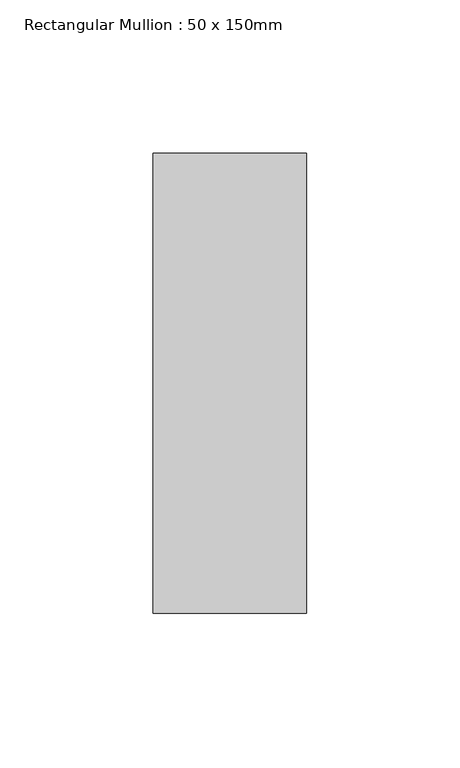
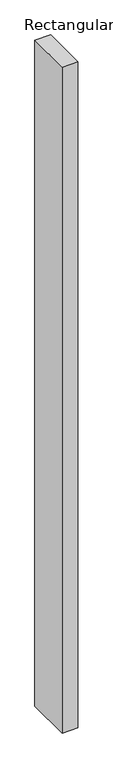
"""IFC4 building model written with IfcOpenShell, lengths in millimetres: member geometry, Rectangular Mullion : 50 x 150mm."""

from ifc_helpers import new_model, si_unit, frame, origin, place, context, project, spatial, polyline, outline, extrude, source, transform, mapped, element, save


def rectangular_mullion_50_x_150mm_0c4aa80c(model_context):
    return source(origin(), model_context, "Body", "SweptSolid", [
        extrude(outline(polyline([(25.0, 75.0), (25.0, -75.0), (-25.0, -75.0), (-25.0, 75.0), (25.0, 75.0)])), frame((0.0, 0.0, -2249.9999999), z_axis=(0.0, 0.0, 1.0), x_axis=(1.0, 0.0, 0.0)), (0.0, 0.0, 1.0), 2249.9999999),
    ])


if __name__ == "__main__":
    model = new_model("IFC4")
    model_context = context("Model", 3, world=origin())
    ifc_project = project(units=[si_unit("LENGTHUNIT", "METRE", prefix="MILLI")], contexts=[model_context])
    site = spatial("IfcSite", under=ifc_project)
    building = spatial("IfcBuilding", under=site)
    placement = place(None, origin())
    rectangular_mullion_50_x_150mm_shape = rectangular_mullion_50_x_150mm_0c4aa80c(model_context)
    element("IfcMember", 1, ObjectType="Rectangular Mullion : 50 x 150mm", at=placement, inside=building, context=model_context, shape_type="MappedRepresentation", body=[
        mapped(rectangular_mullion_50_x_150mm_shape, transform((0.0, 0.0, 0.0), x_axis=(1.0, 0.0, 0.0), y_axis=(0.0, 1.0, 0.0), z_axis=(0.0, 0.0, 1.0))),
    ])
    save(model, "model.ifc")
